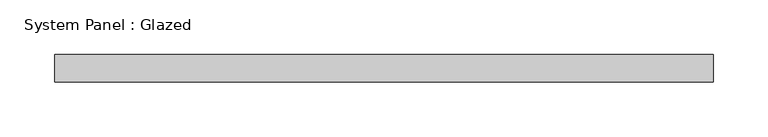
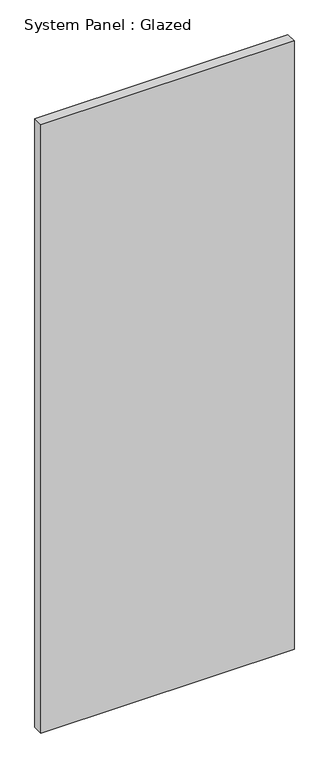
"""IFC4 building model written with IfcOpenShell, lengths in millimetres: plate geometry, System Panel : Glazed."""

from ifc_helpers import new_model, si_unit, origin, origin_with_axes, place, context, project, spatial, polyline, outline, extrude, source, transform, mapped, element, save


def system_panel_glazed_a5baa60f(model_context):
    return source(origin(), model_context, "Body", "SweptSolid", [
        extrude(outline(polyline([(300.0, 24.5), (-300.0, 24.5), (-300.0, 49.5), (300.0, 49.5), (300.0, 24.5)])), origin_with_axes(), (0.0, 0.0, 1.0), 1525.0),
    ])


if __name__ == "__main__":
    model = new_model("IFC4")
    model_context = context("Model", 3, world=origin())
    ifc_project = project(units=[si_unit("LENGTHUNIT", "METRE", prefix="MILLI")], contexts=[model_context])
    site = spatial("IfcSite", under=ifc_project)
    building = spatial("IfcBuilding", under=site)
    placement = place(None, origin())
    system_panel_glazed_shape = system_panel_glazed_a5baa60f(model_context)
    element("IfcPlate", 1, ObjectType="System Panel : Glazed", at=placement, inside=building, context=model_context, shape_type="MappedRepresentation", body=[
        mapped(system_panel_glazed_shape, transform((0.0, 0.0, 0.0), x_axis=(1.0, 0.0, 0.0), y_axis=(0.0, 1.0, 0.0), z_axis=(0.0, 0.0, 1.0))),
    ])
    save(model, "model.ifc")
